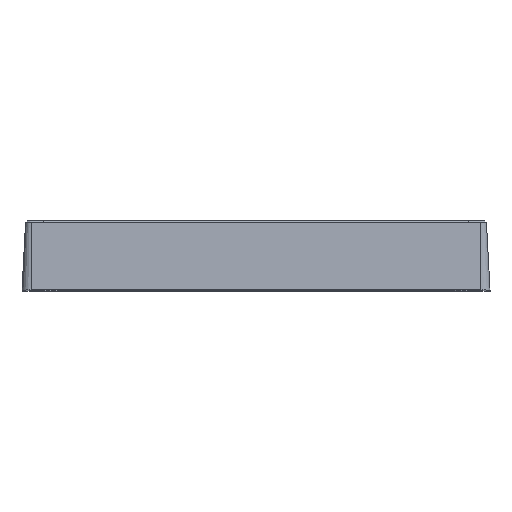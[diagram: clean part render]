
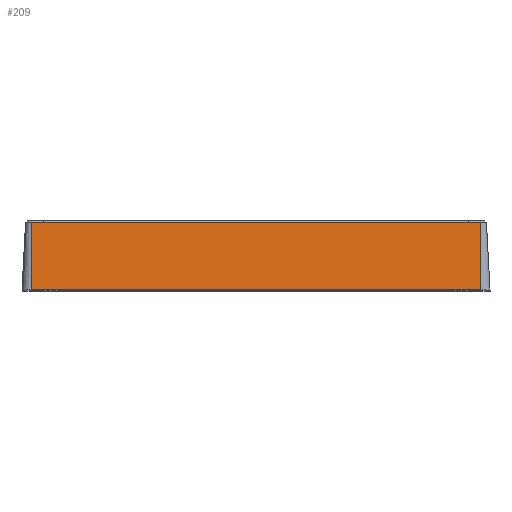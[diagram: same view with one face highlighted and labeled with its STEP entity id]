
A CAD part, top view. The second image highlights one B-rep face of the part: STEP entity #209.
In plain terms, the highlighted planar face has unit normal (0, 0.052, 0.999).
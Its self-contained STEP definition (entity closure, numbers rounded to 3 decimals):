
#201 = EDGE_CURVE ( 'NONE', #202, #203, #1008, .T. ) ;
#202 = VERTEX_POINT ( 'NONE', #1004 ) ;
#203 = VERTEX_POINT ( 'NONE', #1003 ) ;
#209 = ADVANCED_FACE ( 'NONE', ( #992 ), #991, .T. ) ;
#210 = EDGE_LOOP ( 'NONE', ( #211, #527, #529, #530 ) ) ;
#211 = ORIENTED_EDGE ( 'NONE', *, *, #212, .F. ) ;
#212 = EDGE_CURVE ( 'NONE', #213, #526, #1050, .T. ) ;
#213 = VERTEX_POINT ( 'NONE', #1046 ) ;
#526 = VERTEX_POINT ( 'NONE', #2260 ) ;
#527 = ORIENTED_EDGE ( 'NONE', *, *, #528, .T. ) ;
#528 = EDGE_CURVE ( 'NONE', #213, #202, #2259, .T. ) ;
#529 = ORIENTED_EDGE ( 'NONE', *, *, #201, .T. ) ;
#530 = ORIENTED_EDGE ( 'NONE', *, *, #531, .T. ) ;
#531 = EDGE_CURVE ( 'NONE', #203, #526, #2255, .T. ) ;
#991 = PLANE ( 'NONE',  #1054 ) ;
#992 = FACE_OUTER_BOUND ( 'NONE', #210, .T. ) ;
#1003 = CARTESIAN_POINT ( 'NONE',  ( -86.5, 0., 127.5 ) ) ;
#1004 = CARTESIAN_POINT ( 'NONE',  ( -86.5, 25.967, 126.139 ) ) ;
#1005 = DIRECTION ( 'NONE',  ( 0., -0.999, 0.052 ) ) ;
#1006 = VECTOR ( 'NONE', #1005, 1000. ) ;
#1007 = CARTESIAN_POINT ( 'NONE',  ( -86.5, 0., 127.5 ) ) ;
#1008 = LINE ( 'NONE', #1007, #1006 ) ;
#1046 = CARTESIAN_POINT ( 'NONE',  ( 86.5, 25.967, 126.139 ) ) ;
#1047 = DIRECTION ( 'NONE',  ( 0., -0.999, 0.052 ) ) ;
#1048 = VECTOR ( 'NONE', #1047, 1000. ) ;
#1049 = CARTESIAN_POINT ( 'NONE',  ( 86.5, 0., 127.5 ) ) ;
#1050 = LINE ( 'NONE', #1049, #1048 ) ;
#1051 = DIRECTION ( 'NONE',  ( 0., -0.999, 0.052 ) ) ;
#1052 = DIRECTION ( 'NONE',  ( 0., 0.052, 0.999 ) ) ;
#1053 = CARTESIAN_POINT ( 'NONE',  ( -86.5, 0., 127.5 ) ) ;
#1054 = AXIS2_PLACEMENT_3D ( 'NONE', #1053, #1052, #1051 ) ;
#2252 = DIRECTION ( 'NONE',  ( 1., 0., 0. ) ) ;
#2253 = VECTOR ( 'NONE', #2252, 1000. ) ;
#2254 = CARTESIAN_POINT ( 'NONE',  ( -86.5, 0., 127.5 ) ) ;
#2255 = LINE ( 'NONE', #2254, #2253 ) ;
#2256 = DIRECTION ( 'NONE',  ( -1., 0., 0. ) ) ;
#2257 = VECTOR ( 'NONE', #2256, 1000. ) ;
#2258 = CARTESIAN_POINT ( 'NONE',  ( -86.5, 25.967, 126.139 ) ) ;
#2259 = LINE ( 'NONE', #2258, #2257 ) ;
#2260 = CARTESIAN_POINT ( 'NONE',  ( 86.5, 0., 127.5 ) ) ;
